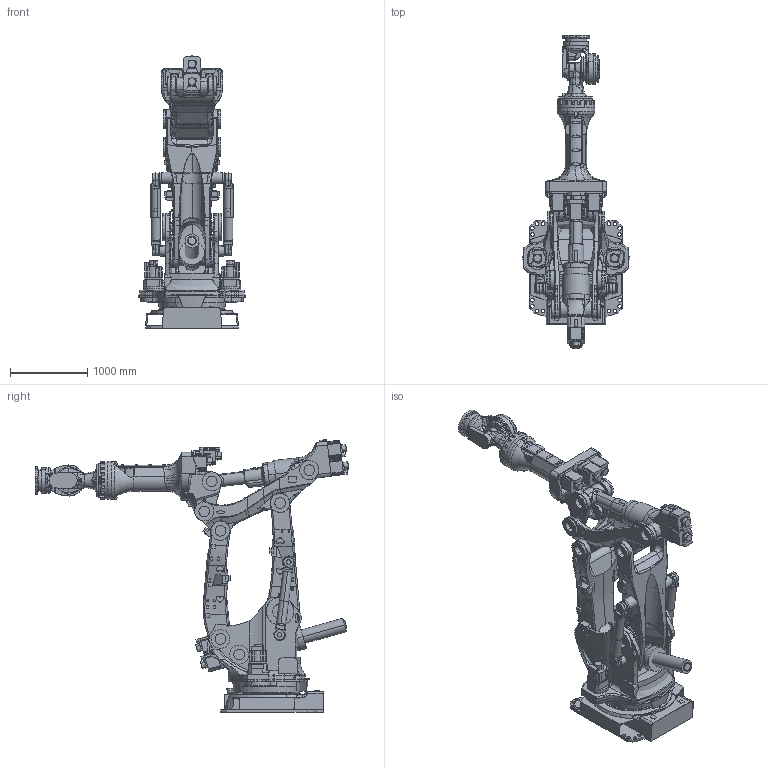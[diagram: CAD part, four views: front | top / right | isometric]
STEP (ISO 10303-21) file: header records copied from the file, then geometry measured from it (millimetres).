
FILE_DESCRIPTION(('CATIA V5 STEP Exchange'),'2;1');
FILE_NAME('C:\Users\RBUSERS\Desktop\CS-Conf_161216~\MG15HL-B501_161222\軽量化\ALLCATPart\MG15HL-B001.stp','2017-01-16T08:59:27+00:00',('none'),('none'),'CATIA Version 5-6 Release 2013 SP5 HF60','CATIA V5 STEP AP203','none');
FILE_SCHEMA(('CONFIG_CONTROL_DESIGN'));
Products named in the file (1): MG15HL-B001
Assembly tree (25 placements, depth 2):
  MG15HL-B001
    #57
    #7112
    #27976
    #34115
    #47003
    #73417
    #79933
    #84950
    #92492
    #94255
    #110086
    #136335
    #138935
    #143345
    #145099
    #145220
    #147820
    #151932
    #154838
    #156116
    #158867
    #161844
    #163213
    #164026
    #164523
Bounding box: 1377.56 x 4052.57 x 3529.58 mm (x, y, z)
Volume: 1589599533.3 mm3; surface area: 42873220.3 mm2
Topology: 46 solids, 52 shells, 3881 faces, 10452 edges, 6815 vertices
Faces by surface type: plane 1583, cylinder 1277, bspline 352, cone 308, revolution 179, torus 85, extrusion 65, sphere 32
Entity records: 165735 total; most frequent: CARTESIAN_POINT 77084, ORIENTED_EDGE 20852, DIRECTION 13302, EDGE_CURVE 10426, VERTEX_POINT 6815, AXIS2_PLACEMENT_3D 5710, VECTOR 4583, LINE 4518
